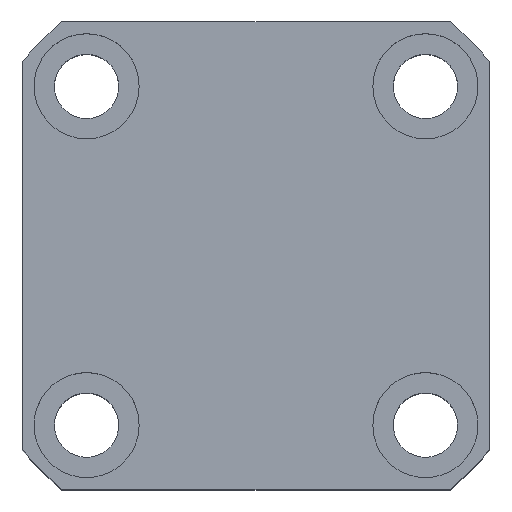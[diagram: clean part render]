
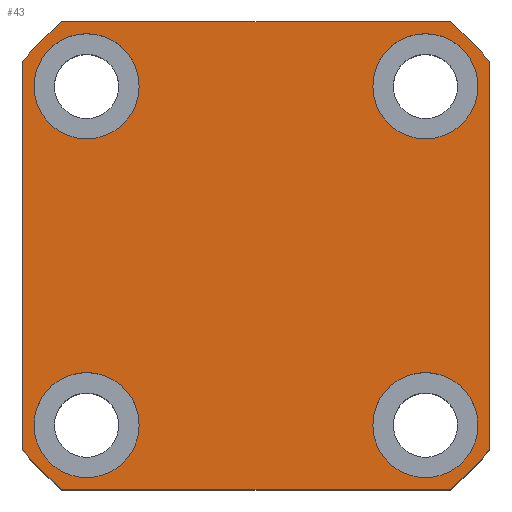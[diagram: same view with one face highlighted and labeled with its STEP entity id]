
A CAD part, top view. The second image highlights one B-rep face of the part: STEP entity #43.
In plain terms, the highlighted planar face has unit normal (0, 0, 1).
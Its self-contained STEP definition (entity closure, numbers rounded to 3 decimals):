
#43 = ADVANCED_FACE ( 'NONE', ( #2213, #80, #624, #1493, #1854 ), #6588, .T. ) ;
#59 = DIRECTION ( 'NONE',  ( 1., 0., 0. ) ) ;
#80 = FACE_BOUND ( 'NONE', #11587, .T. ) ;
#138 = AXIS2_PLACEMENT_3D ( 'NONE', #10171, #11292, #4898 ) ;
#239 = ORIENTED_EDGE ( 'NONE', *, *, #11833, .F. ) ;
#250 = DIRECTION ( 'NONE',  ( 0., 0., 1. ) ) ;
#436 = VERTEX_POINT ( 'NONE', #8837 ) ;
#587 = CARTESIAN_POINT ( 'NONE',  ( 38., 29., 32.5 ) ) ;
#622 = DIRECTION ( 'NONE',  ( 0., -1., 0. ) ) ;
#624 = FACE_BOUND ( 'NONE', #4408, .T. ) ;
#683 = EDGE_CURVE ( 'NONE', #6286, #12439, #14061, .T. ) ;
#738 = VERTEX_POINT ( 'NONE', #4715 ) ;
#832 = CARTESIAN_POINT ( 'NONE',  ( 0., 0., 32.5 ) ) ;
#1375 = AXIS2_PLACEMENT_3D ( 'NONE', #12086, #12042, #5239 ) ;
#1381 = ORIENTED_EDGE ( 'NONE', *, *, #3535, .T. ) ;
#1436 = DIRECTION ( 'NONE',  ( 1., 0., 0. ) ) ;
#1477 = VERTEX_POINT ( 'NONE', #11369 ) ;
#1493 = FACE_BOUND ( 'NONE', #8874, .T. ) ;
#1624 = CARTESIAN_POINT ( 'NONE',  ( 29., -29., 32.5 ) ) ;
#1801 = CARTESIAN_POINT ( 'NONE',  ( 33.226, -40., 32.5 ) ) ;
#1854 = FACE_OUTER_BOUND ( 'NONE', #1969, .T. ) ;
#1969 = EDGE_LOOP ( 'NONE', ( #1381, #14429, #11625, #6133, #5166, #7026, #3242, #14224 ) ) ;
#2104 = DIRECTION ( 'NONE',  ( 0., 0., 1. ) ) ;
#2117 = EDGE_CURVE ( 'NONE', #12830, #6286, #13157, .T. ) ;
#2213 = FACE_BOUND ( 'NONE', #7491, .T. ) ;
#2214 = DIRECTION ( 'NONE',  ( 1., 0., 0. ) ) ;
#2242 = DIRECTION ( 'NONE',  ( 0., 0., 1. ) ) ;
#2317 = EDGE_CURVE ( 'NONE', #14421, #12830, #12107, .T. ) ;
#2353 = CIRCLE ( 'NONE', #1375, 9. ) ;
#2439 = CARTESIAN_POINT ( 'NONE',  ( -29., -29., 32.5 ) ) ;
#2463 = CARTESIAN_POINT ( 'NONE',  ( 29., 29., 32.5 ) ) ;
#2477 = EDGE_CURVE ( 'NONE', #1477, #5286, #2353, .T. ) ;
#2513 = DIRECTION ( 'NONE',  ( 1., 0., 0. ) ) ;
#2729 = CARTESIAN_POINT ( 'NONE',  ( 40., -33.226, 32.5 ) ) ;
#2870 = DIRECTION ( 'NONE',  ( -1., 0., 0. ) ) ;
#3242 = ORIENTED_EDGE ( 'NONE', *, *, #8161, .T. ) ;
#3247 = CARTESIAN_POINT ( 'NONE',  ( -33.226, -40., 32.5 ) ) ;
#3383 = DIRECTION ( 'NONE',  ( 0., 0., 1. ) ) ;
#3535 = EDGE_CURVE ( 'NONE', #5096, #7192, #13943, .T. ) ;
#3766 = VERTEX_POINT ( 'NONE', #587 ) ;
#4139 = CIRCLE ( 'NONE', #4808, 9. ) ;
#4205 = CIRCLE ( 'NONE', #10682, 9. ) ;
#4227 = AXIS2_PLACEMENT_3D ( 'NONE', #1624, #14105, #14197 ) ;
#4408 = EDGE_LOOP ( 'NONE', ( #9985, #5573 ) ) ;
#4645 = EDGE_CURVE ( 'NONE', #7192, #738, #11620, .T. ) ;
#4715 = CARTESIAN_POINT ( 'NONE',  ( -40., -33.226, 32.5 ) ) ;
#4753 = DIRECTION ( 'NONE',  ( 1., 0., 0. ) ) ;
#4808 = AXIS2_PLACEMENT_3D ( 'NONE', #7653, #8703, #7614 ) ;
#4885 = CIRCLE ( 'NONE', #6419, 9. ) ;
#4898 = DIRECTION ( 'NONE',  ( 1., 0., 0. ) ) ;
#5096 = VERTEX_POINT ( 'NONE', #6779 ) ;
#5159 = EDGE_CURVE ( 'NONE', #6058, #436, #11267, .T. ) ;
#5166 = ORIENTED_EDGE ( 'NONE', *, *, #2117, .T. ) ;
#5168 = CARTESIAN_POINT ( 'NONE',  ( 40., 33.226, 32.5 ) ) ;
#5180 = ORIENTED_EDGE ( 'NONE', *, *, #9078, .F. ) ;
#5239 = DIRECTION ( 'NONE',  ( 1., 0., 0. ) ) ;
#5268 = ORIENTED_EDGE ( 'NONE', *, *, #5159, .F. ) ;
#5286 = VERTEX_POINT ( 'NONE', #8510 ) ;
#5550 = CARTESIAN_POINT ( 'NONE',  ( 40., 33.226, 32.5 ) ) ;
#5573 = ORIENTED_EDGE ( 'NONE', *, *, #2477, .F. ) ;
#5749 = EDGE_CURVE ( 'NONE', #8642, #9707, #8979, .T. ) ;
#5792 = CARTESIAN_POINT ( 'NONE',  ( -29., 29., 32.5 ) ) ;
#5841 = EDGE_CURVE ( 'NONE', #6659, #3766, #4885, .T. ) ;
#5910 = VECTOR ( 'NONE', #9039, 1000. ) ;
#6058 = VERTEX_POINT ( 'NONE', #8922 ) ;
#6064 = CARTESIAN_POINT ( 'NONE',  ( 38., -29., 32.5 ) ) ;
#6133 = ORIENTED_EDGE ( 'NONE', *, *, #2317, .T. ) ;
#6286 = VERTEX_POINT ( 'NONE', #2729 ) ;
#6310 = CARTESIAN_POINT ( 'NONE',  ( 0., 0., 32.5 ) ) ;
#6419 = AXIS2_PLACEMENT_3D ( 'NONE', #2463, #13683, #10334 ) ;
#6425 = DIRECTION ( 'NONE',  ( 0., 0., 1. ) ) ;
#6588 = PLANE ( 'NONE',  #10859 ) ;
#6659 = VERTEX_POINT ( 'NONE', #12668 ) ;
#6779 = CARTESIAN_POINT ( 'NONE',  ( -33.226, 40., 32.5 ) ) ;
#6801 = CARTESIAN_POINT ( 'NONE',  ( 29., -29., 32.5 ) ) ;
#7026 = ORIENTED_EDGE ( 'NONE', *, *, #683, .T. ) ;
#7076 = EDGE_CURVE ( 'NONE', #738, #14421, #12146, .T. ) ;
#7192 = VERTEX_POINT ( 'NONE', #10876 ) ;
#7427 = EDGE_CURVE ( 'NONE', #11546, #5096, #7874, .T. ) ;
#7491 = EDGE_LOOP ( 'NONE', ( #11779, #13787 ) ) ;
#7614 = DIRECTION ( 'NONE',  ( 1., 0., 0. ) ) ;
#7653 = CARTESIAN_POINT ( 'NONE',  ( 29., 29., 32.5 ) ) ;
#7741 = CARTESIAN_POINT ( 'NONE',  ( 0., 0., 32.5 ) ) ;
#7874 = LINE ( 'NONE', #11495, #9120 ) ;
#7893 = DIRECTION ( 'NONE',  ( 0., 0., 1. ) ) ;
#7956 = AXIS2_PLACEMENT_3D ( 'NONE', #6801, #3383, #8995 ) ;
#8161 = EDGE_CURVE ( 'NONE', #12439, #11546, #13544, .T. ) ;
#8199 = AXIS2_PLACEMENT_3D ( 'NONE', #10853, #6425, #14316 ) ;
#8233 = AXIS2_PLACEMENT_3D ( 'NONE', #2439, #250, #1436 ) ;
#8510 = CARTESIAN_POINT ( 'NONE',  ( -20., 29., 32.5 ) ) ;
#8642 = VERTEX_POINT ( 'NONE', #6064 ) ;
#8703 = DIRECTION ( 'NONE',  ( 0., 0., 1. ) ) ;
#8837 = CARTESIAN_POINT ( 'NONE',  ( -20., -29., 32.5 ) ) ;
#8874 = EDGE_LOOP ( 'NONE', ( #5180, #10075 ) ) ;
#8922 = CARTESIAN_POINT ( 'NONE',  ( -38., -29., 32.5 ) ) ;
#8979 = CIRCLE ( 'NONE', #7956, 9. ) ;
#8995 = DIRECTION ( 'NONE',  ( 1., 0., 0. ) ) ;
#9039 = DIRECTION ( 'NONE',  ( 0., 1., 0. ) ) ;
#9078 = EDGE_CURVE ( 'NONE', #3766, #6659, #4139, .T. ) ;
#9086 = VECTOR ( 'NONE', #4753, 1000. ) ;
#9120 = VECTOR ( 'NONE', #2870, 1000. ) ;
#9707 = VERTEX_POINT ( 'NONE', #10362 ) ;
#9856 = DIRECTION ( 'NONE',  ( 1., 0., 0. ) ) ;
#9985 = ORIENTED_EDGE ( 'NONE', *, *, #10839, .F. ) ;
#10032 = DIRECTION ( 'NONE',  ( 1., 0., 0. ) ) ;
#10075 = ORIENTED_EDGE ( 'NONE', *, *, #5841, .F. ) ;
#10171 = CARTESIAN_POINT ( 'NONE',  ( 0., 0., 32.5 ) ) ;
#10334 = DIRECTION ( 'NONE',  ( 1., 0., 0. ) ) ;
#10362 = CARTESIAN_POINT ( 'NONE',  ( 20., -29., 32.5 ) ) ;
#10682 = AXIS2_PLACEMENT_3D ( 'NONE', #5792, #2242, #59 ) ;
#10839 = EDGE_CURVE ( 'NONE', #5286, #1477, #4205, .T. ) ;
#10853 = CARTESIAN_POINT ( 'NONE',  ( 0., 0., 32.5 ) ) ;
#10859 = AXIS2_PLACEMENT_3D ( 'NONE', #7741, #2104, #10032 ) ;
#10876 = CARTESIAN_POINT ( 'NONE',  ( -40., 33.226, 32.5 ) ) ;
#10958 = CIRCLE ( 'NONE', #4227, 9. ) ;
#10986 = AXIS2_PLACEMENT_3D ( 'NONE', #832, #11027, #9856 ) ;
#11027 = DIRECTION ( 'NONE',  ( 0., 0., 1. ) ) ;
#11069 = EDGE_CURVE ( 'NONE', #9707, #8642, #10958, .T. ) ;
#11267 = CIRCLE ( 'NONE', #8233, 9. ) ;
#11292 = DIRECTION ( 'NONE',  ( 0., 0., 1. ) ) ;
#11369 = CARTESIAN_POINT ( 'NONE',  ( -38., 29., 32.5 ) ) ;
#11495 = CARTESIAN_POINT ( 'NONE',  ( -33.226, 40., 32.5 ) ) ;
#11527 = CARTESIAN_POINT ( 'NONE',  ( -33.226, -40., 32.5 ) ) ;
#11546 = VERTEX_POINT ( 'NONE', #14690 ) ;
#11587 = EDGE_LOOP ( 'NONE', ( #239, #5268 ) ) ;
#11620 = LINE ( 'NONE', #12109, #14281 ) ;
#11625 = ORIENTED_EDGE ( 'NONE', *, *, #7076, .T. ) ;
#11779 = ORIENTED_EDGE ( 'NONE', *, *, #5749, .F. ) ;
#11833 = EDGE_CURVE ( 'NONE', #436, #6058, #13235, .T. ) ;
#12042 = DIRECTION ( 'NONE',  ( 0., 0., 1. ) ) ;
#12086 = CARTESIAN_POINT ( 'NONE',  ( -29., 29., 32.5 ) ) ;
#12107 = LINE ( 'NONE', #11527, #9086 ) ;
#12109 = CARTESIAN_POINT ( 'NONE',  ( -40., 33.226, 32.5 ) ) ;
#12146 = CIRCLE ( 'NONE', #12900, 52. ) ;
#12439 = VERTEX_POINT ( 'NONE', #5168 ) ;
#12668 = CARTESIAN_POINT ( 'NONE',  ( 20., 29., 32.5 ) ) ;
#12830 = VERTEX_POINT ( 'NONE', #1801 ) ;
#12900 = AXIS2_PLACEMENT_3D ( 'NONE', #6310, #14236, #2513 ) ;
#13157 = CIRCLE ( 'NONE', #138, 52. ) ;
#13235 = CIRCLE ( 'NONE', #14565, 9. ) ;
#13442 = CARTESIAN_POINT ( 'NONE',  ( -29., -29., 32.5 ) ) ;
#13544 = CIRCLE ( 'NONE', #10986, 52. ) ;
#13683 = DIRECTION ( 'NONE',  ( 0., 0., 1. ) ) ;
#13787 = ORIENTED_EDGE ( 'NONE', *, *, #11069, .F. ) ;
#13943 = CIRCLE ( 'NONE', #8199, 52. ) ;
#14061 = LINE ( 'NONE', #5550, #5910 ) ;
#14105 = DIRECTION ( 'NONE',  ( 0., 0., 1. ) ) ;
#14197 = DIRECTION ( 'NONE',  ( 1., 0., 0. ) ) ;
#14224 = ORIENTED_EDGE ( 'NONE', *, *, #7427, .T. ) ;
#14236 = DIRECTION ( 'NONE',  ( 0., 0., 1. ) ) ;
#14281 = VECTOR ( 'NONE', #622, 1000. ) ;
#14316 = DIRECTION ( 'NONE',  ( 1., 0., 0. ) ) ;
#14421 = VERTEX_POINT ( 'NONE', #3247 ) ;
#14429 = ORIENTED_EDGE ( 'NONE', *, *, #4645, .T. ) ;
#14565 = AXIS2_PLACEMENT_3D ( 'NONE', #13442, #7893, #2214 ) ;
#14690 = CARTESIAN_POINT ( 'NONE',  ( 33.226, 40., 32.5 ) ) ;
